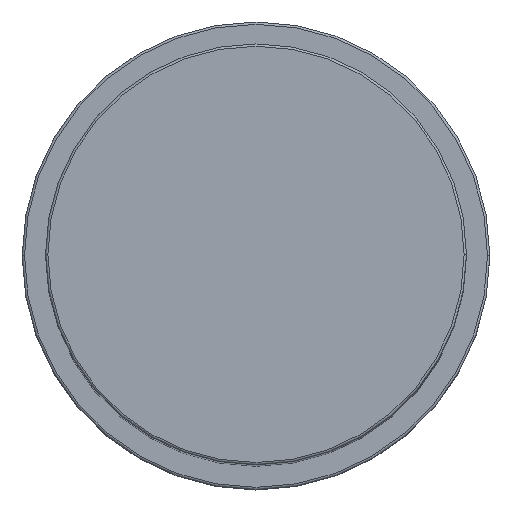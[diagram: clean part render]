
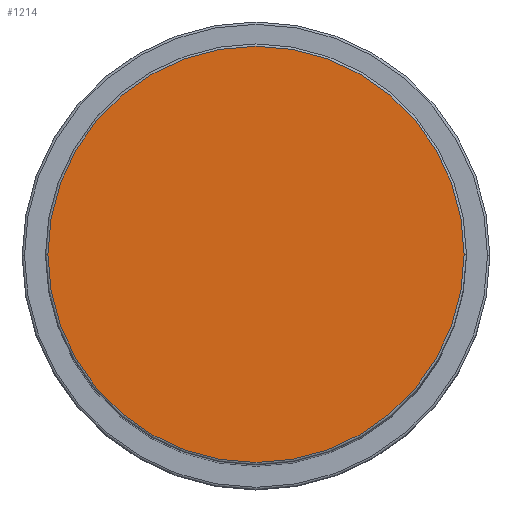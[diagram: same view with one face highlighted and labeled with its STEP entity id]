
A CAD part, top view. The second image highlights one B-rep face of the part: STEP entity #1214.
In plain terms, the highlighted planar face has unit normal (0, 0, 1).
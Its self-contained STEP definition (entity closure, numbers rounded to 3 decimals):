
#23 = DIRECTION ( 'NONE',  ( 1., 0., 0. ) ) ;
#200 = ORIENTED_EDGE ( 'NONE', *, *, #902, .T. ) ;
#281 = CARTESIAN_POINT ( 'NONE',  ( 44.5, 0., 199. ) ) ;
#314 = PLANE ( 'NONE',  #927 ) ;
#380 = CARTESIAN_POINT ( 'NONE',  ( -44.5, 0., 199. ) ) ;
#393 = EDGE_CURVE ( 'NONE', #1469, #970, #953, .T. ) ;
#724 = FACE_OUTER_BOUND ( 'NONE', #2041, .T. ) ;
#771 = CARTESIAN_POINT ( 'NONE',  ( 0., 0., 199. ) ) ;
#902 = EDGE_CURVE ( 'NONE', #970, #1469, #1188, .T. ) ;
#927 = AXIS2_PLACEMENT_3D ( 'NONE', #1282, #974, #23 ) ;
#953 = CIRCLE ( 'NONE', #1005, 44.5 ) ;
#970 = VERTEX_POINT ( 'NONE', #281 ) ;
#974 = DIRECTION ( 'NONE',  ( 0., 0., 1. ) ) ;
#1005 = AXIS2_PLACEMENT_3D ( 'NONE', #1093, #1597, #1749 ) ;
#1085 = DIRECTION ( 'NONE',  ( 1., 0., 0. ) ) ;
#1093 = CARTESIAN_POINT ( 'NONE',  ( 0., 0., 199. ) ) ;
#1188 = CIRCLE ( 'NONE', #1881, 44.5 ) ;
#1214 = ADVANCED_FACE ( 'NONE', ( #724 ), #314, .T. ) ;
#1282 = CARTESIAN_POINT ( 'NONE',  ( 0., 0., 199. ) ) ;
#1469 = VERTEX_POINT ( 'NONE', #380 ) ;
#1597 = DIRECTION ( 'NONE',  ( 0., 0., 1. ) ) ;
#1749 = DIRECTION ( 'NONE',  ( 1., 0., 0. ) ) ;
#1881 = AXIS2_PLACEMENT_3D ( 'NONE', #771, #1882, #1085 ) ;
#1882 = DIRECTION ( 'NONE',  ( 0., 0., 1. ) ) ;
#2040 = ORIENTED_EDGE ( 'NONE', *, *, #393, .T. ) ;
#2041 = EDGE_LOOP ( 'NONE', ( #200, #2040 ) ) ;
